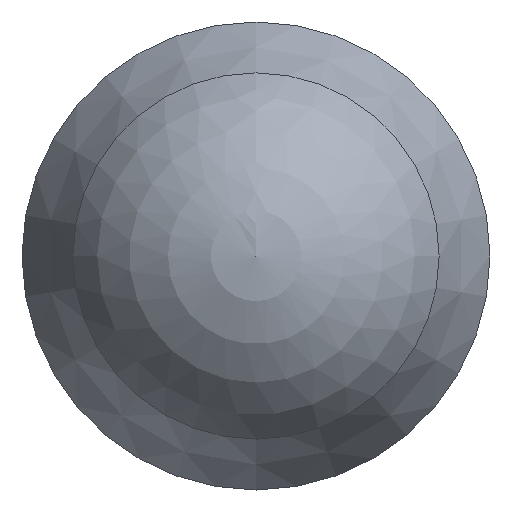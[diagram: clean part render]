
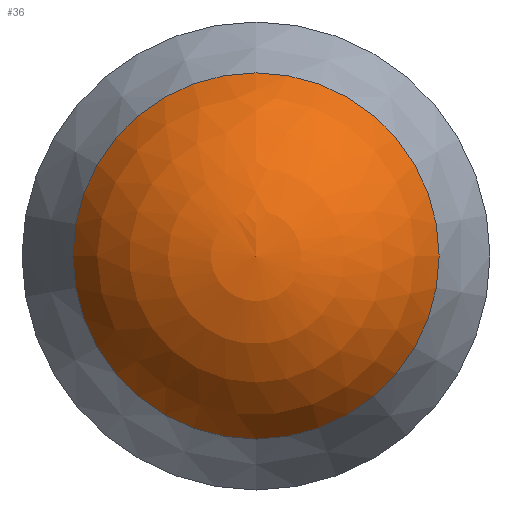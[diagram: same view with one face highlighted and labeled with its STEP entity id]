
A CAD part, left-side view. The second image highlights one B-rep face of the part: STEP entity #36.
In plain terms, the highlighted spherical face has radius 2 mm.
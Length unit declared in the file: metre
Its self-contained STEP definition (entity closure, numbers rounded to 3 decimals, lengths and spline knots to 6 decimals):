
#36 = ADVANCED_FACE( '', ( #73 ), #74, .T. );
#73 = FACE_OUTER_BOUND( '', #110, .T. );
#74 = SPHERICAL_SURFACE( '', #111, 0.002 );
#110 = EDGE_LOOP( '', ( #145 ) );
#111 = AXIS2_PLACEMENT_3D( '', #146, #147, #148 );
#145 = ORIENTED_EDGE( '', *, *, #184, .T. );
#146 = CARTESIAN_POINT( '', ( -0.0019, 0., 0. ) );
#147 = DIRECTION( '', ( -1., 0., 0. ) );
#148 = DIRECTION( '', ( 0., 0., 1. ) );
#184 = EDGE_CURVE( '', #202, #202, #203, .T. );
#202 = VERTEX_POINT( '', #224 );
#203 = CIRCLE( '', #225, 0.0018 );
#224 = CARTESIAN_POINT( '', ( -0.002772, 0., 0.0018 ) );
#225 = AXIS2_PLACEMENT_3D( '', #246, #247, #248 );
#246 = CARTESIAN_POINT( '', ( -0.002772, 0., 0. ) );
#247 = DIRECTION( '', ( -1., 0., 0. ) );
#248 = DIRECTION( '', ( 0., 0., 1. ) );
